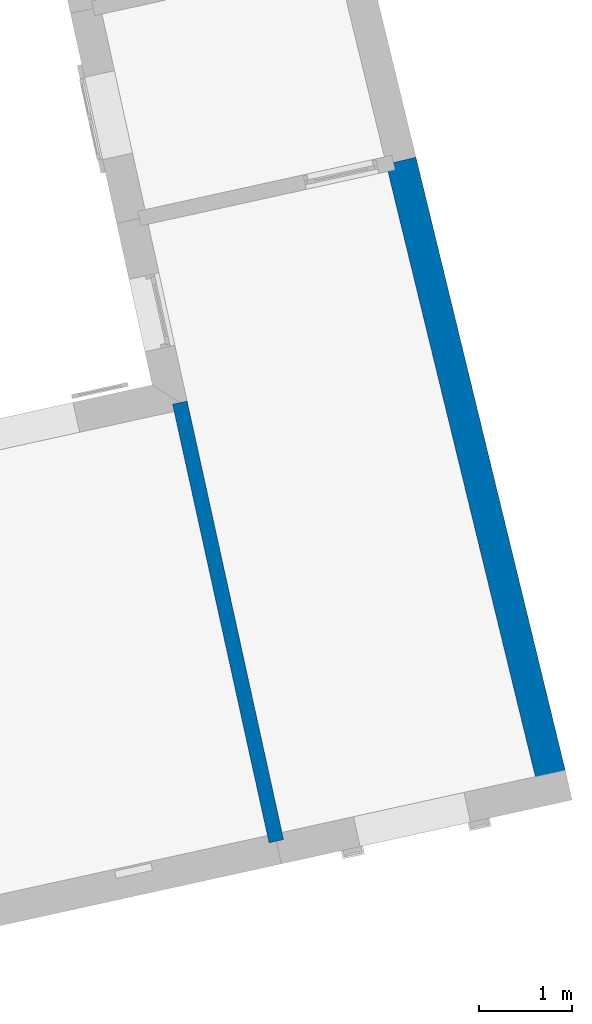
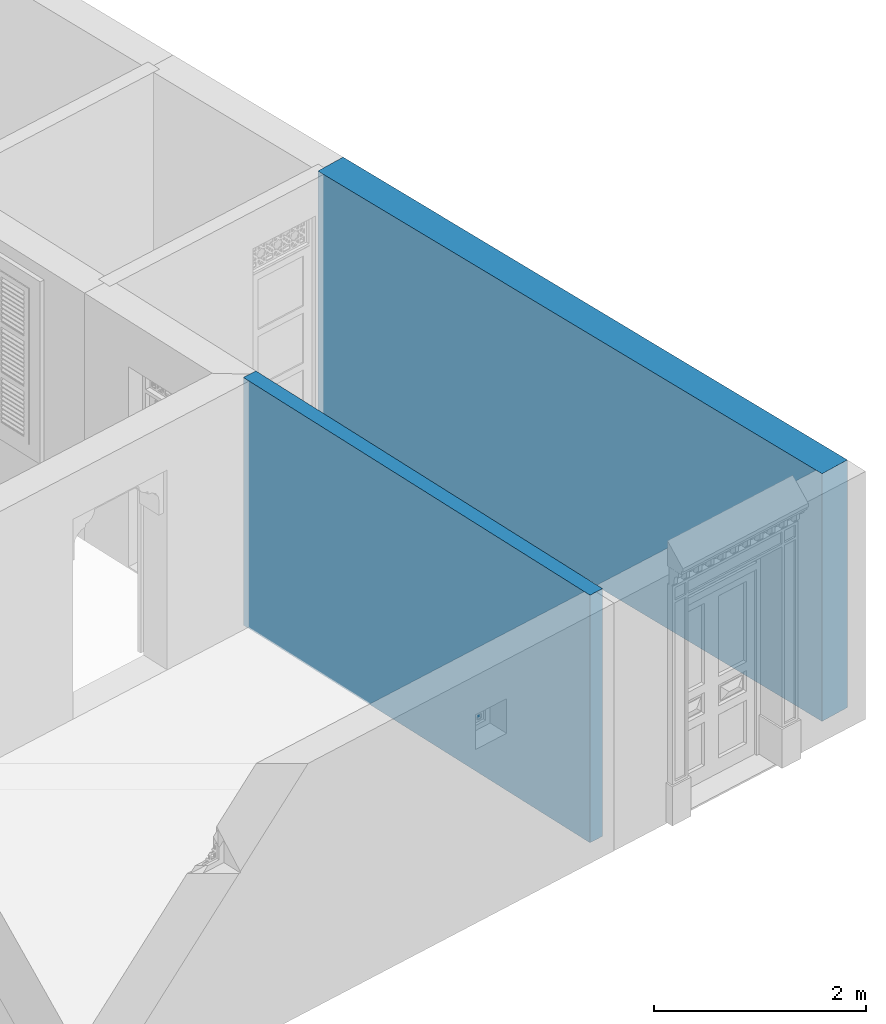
# One storey, part 4 of 14: 2 walls.
"""IFC4 building model written with IfcOpenShell, lengths in metres."""

import ifcopenshell
import ifcopenshell.guid

model = None  # the IFC model being written
_history = None  # IfcOwnerHistory: only IFC2X3 demands one
_inside = {}  # id of a spatial element -> (the spatial element, [elements in it])
_under = {}  # id of a project, library or spatial element -> (it, [spatial elements below it])
_declared = {}  # id of a project -> (the project, [libraries it declares])
_typed = {}  # id of a type object -> (the type object, [elements of that type])
_made_of = {}  # id of a material, layer set ... -> (it, [elements and type objects made of it])


def new_model(schema):
    """Start an empty IFC model of exactly this schema.

    Asked for "IFC4X3", IfcOpenShell would pick the latest addendum, in which some entities
    have other attributes; the version numbers below select the first issue.
    IFC2X3 requires an IfcOwnerHistory on every rooted entity: one is made here for all.
    """
    global model, _history
    if schema == "IFC4X3":
        model = ifcopenshell.file(schema_version=(4, 3, 0, 0))
    else:
        model = ifcopenshell.file(schema=schema)
    _inside.clear()
    _under.clear()
    _declared.clear()
    _typed.clear()
    _made_of.clear()
    _history = None
    if model.schema == "IFC2X3":
        org = make("IfcOrganization", Name="unknown")
        user = make(
            "IfcPersonAndOrganization",
            ThePerson=make("IfcPerson", FamilyName="unknown"),
            TheOrganization=org,
        )
        app = make(
            "IfcApplication",
            ApplicationDeveloper=org,
            Version="unknown",
            ApplicationFullName="unknown",
            ApplicationIdentifier="unknown",
        )
        _history = make(
            "IfcOwnerHistory",
            OwningUser=user,
            OwningApplication=app,
            ChangeAction="ADDED",
            CreationDate=0,
        )
    return model


def make(cls, **values):
    """One entity of the class cls with the attributes given. An attribute that is None is left unset."""
    return model.create_entity(
        cls, **{name: value for name, value in values.items() if value is not None}
    )


def rooted(cls, **values):
    """An entity with a GlobalId (a new one), such as an element, a storey or a relation."""
    return make(cls, GlobalId=ifcopenshell.guid.new(), OwnerHistory=_history, **values)


def si_unit(unit_type, name, prefix=None):
    """IfcSIUnit, for example si_unit("LENGTHUNIT", "METRE", prefix="MILLI")."""
    return make("IfcSIUnit", UnitType=unit_type, Prefix=prefix, Name=name)


def assignment(units):
    """IfcUnitAssignment: the units of a project."""
    return None if units is None else make("IfcUnitAssignment", Units=units)


def point(xyz):
    """IfcCartesianPoint."""
    return None if xyz is None else make("IfcCartesianPoint", Coordinates=xyz)


def direction(xyz):
    """IfcDirection."""
    return None if xyz is None else make("IfcDirection", DirectionRatios=xyz)


def frame(location, z_axis=None, x_axis=None):
    """IfcAxis2Placement3D, a coordinate frame: its origin and axes. An axis left out is left unset."""
    return make(
        "IfcAxis2Placement3D",
        Location=point(location),
        Axis=direction(z_axis),
        RefDirection=direction(x_axis),
    )


def origin_with_axes():
    """The frame at (0, 0, 0) with the z axis (0, 0, 1) and the x axis (1, 0, 0) written out."""
    return frame((0.0, 0.0, 0.0), z_axis=(0.0, 0.0, 1.0), x_axis=(1.0, 0.0, 0.0))


def place(relative_to, where):
    """IfcLocalPlacement: puts the frame where relative to a parent placement (None: the world)."""
    return make(
        "IfcLocalPlacement", PlacementRelTo=relative_to, RelativePlacement=where
    )


def context(
    kind, dimensions, precision=None, world=None, true_north=None, identifier=None
):
    """IfcGeometricRepresentationContext, for example the 3D "Model" context."""
    return make(
        "IfcGeometricRepresentationContext",
        ContextIdentifier=identifier,
        ContextType=kind,
        CoordinateSpaceDimension=dimensions,
        Precision=precision,
        WorldCoordinateSystem=world,
        TrueNorth=true_north,
    )


def subcontext(parent, identifier, kind, view, scale=None):
    """IfcGeometricRepresentationSubContext, for example "Body" below "Model"."""
    return make(
        "IfcGeometricRepresentationSubContext",
        ContextIdentifier=identifier,
        ContextType=kind,
        ParentContext=parent,
        TargetScale=scale,
        TargetView=view,
    )


def project(units=None, contexts=None):
    """IfcProject with its units and contexts."""
    return rooted(
        "IfcProject",
        Name="project",
        RepresentationContexts=contexts,
        UnitsInContext=assignment(units),
    )


def spatial(cls, under=None, at=None, **own):
    """A site, building, storey or space (cls), placed at a placement, below another one or the project."""
    s = rooted(cls, ObjectPlacement=at, **own)
    if under is not None:
        _under.setdefault(under.id(), (under, []))[1].append(s)
    return s


def polyline(points):
    """IfcPolyline through the points."""
    return make("IfcPolyline", Points=[point(p) for p in points])


def outline(outer, holes=None, kind="AREA"):
    """IfcArbitraryClosedProfileDef: a profile drawn as a closed curve; with holes, ...WithVoids."""
    if holes is None:
        return make("IfcArbitraryClosedProfileDef", ProfileType=kind, OuterCurve=outer)
    return make(
        "IfcArbitraryProfileDefWithVoids",
        ProfileType=kind,
        OuterCurve=outer,
        InnerCurves=holes,
    )


def extrude(swept, where, along, depth):
    """IfcExtrudedAreaSolid: the profile swept, set in the frame where, extruded along a direction by depth."""
    return make(
        "IfcExtrudedAreaSolid",
        SweptArea=swept,
        Position=where,
        ExtrudedDirection=direction(along),
        Depth=depth,
    )


def shape(context_of_items, identifier, shape_type, items):
    """IfcShapeRepresentation: the items that make up one representation, for example the "Body"."""
    return make(
        "IfcShapeRepresentation",
        ContextOfItems=context_of_items,
        RepresentationIdentifier=identifier,
        RepresentationType=shape_type,
        Items=items,
    )


def material(Name=None, Category=None):
    """IfcMaterial."""
    return make("IfcMaterial", Name=Name, Category=Category)


def layer(
    of_material, thickness, ventilated=None, Name=None, Category=None, Priority=None
):
    """IfcMaterialLayer: one layer of a wall or slab, of a material (None: an air gap)."""
    return make(
        "IfcMaterialLayer",
        Material=of_material,
        LayerThickness=thickness,
        IsVentilated=ventilated,
        Name=Name,
        Category=Category,
        Priority=Priority,
    )


def layer_set(layers, Name=None):
    """IfcMaterialLayerSet."""
    return make("IfcMaterialLayerSet", MaterialLayers=layers, LayerSetName=Name)


def layer_usage(for_layer_set, set_direction, sense, offset, extent=None):
    """IfcMaterialLayerSetUsage: how a layer set lies in its element."""
    return make(
        "IfcMaterialLayerSetUsage",
        ForLayerSet=for_layer_set,
        LayerSetDirection=set_direction,
        DirectionSense=sense,
        OffsetFromReferenceLine=offset,
        ReferenceExtent=extent,
    )


def made_of(thing, what):
    """Note that an element or type object is made of a material, layer set ...; save() writes the relation."""
    if what is not None:
        _made_of.setdefault(what.id(), (what, []))[1].append(thing)
    return thing


def type_object(cls, material=None, **own):
    """A type object (cls), such as IfcWallType, which elements share."""
    return made_of(rooted(cls, **own), material)


def element(
    cls,
    number,
    at=None,
    inside=None,
    cuts=None,
    type_object=None,
    material=None,
    context=None,
    identifier="Body",
    shape_type=None,
    held_by="IfcProductDefinitionShape",
    body=None,
    shapes=None,
    **own,
):
    """One element of the class cls, such as IfcWall. Its Tag is "e" and its number.

    at: its placement. inside: the storey or other place that contains it. cuts: it is an
    opening in that element (IfcRelVoidsElement). A single representation is given by context,
    identifier, shape_type and body (its items); several are given by shapes. held_by: the class
    of the entity that holds the representations. save() writes the other relations.
    """
    e = rooted(cls, Tag="e%d" % number, ObjectPlacement=at, **own)
    if body is not None:
        shapes = [shape(context, identifier, shape_type, body)]
    if shapes is not None:
        e.Representation = make(held_by, Representations=shapes)
    if inside is not None:
        _inside.setdefault(inside.id(), (inside, []))[1].append(e)
    if cuts is not None:
        rooted(
            "IfcRelVoidsElement", RelatingBuildingElement=cuts, RelatedOpeningElement=e
        )
    if type_object is not None:
        _typed.setdefault(type_object.id(), (type_object, []))[1].append(e)
    return made_of(e, material)


def aggregate(whole, parts):
    """IfcRelAggregates: a whole, such as a stair, and the parts it consists of."""
    return rooted("IfcRelAggregates", RelatingObject=whole, RelatedObjects=parts)


def save(model, path):
    """Write the relations noted so far, then the file.

    IfcRelAggregates (storeys below a building ...), IfcRelContainedInSpatialStructure (elements
    in a storey), IfcRelDefinesByType, IfcRelAssociatesMaterial and IfcRelDeclares: one each for
    every whole, place, type object, material and project.
    """
    for whole, parts in _under.values():
        aggregate(whole, parts)
    for where, things in _inside.values():
        rooted(
            "IfcRelContainedInSpatialStructure",
            RelatedElements=things,
            RelatingStructure=where,
        )
    for kind, things in _typed.values():
        rooted("IfcRelDefinesByType", RelatedObjects=things, RelatingType=kind)
    for what, things in _made_of.values():
        rooted("IfcRelAssociatesMaterial", RelatedObjects=things, RelatingMaterial=what)
    for by, libraries in _declared.values():
        rooted("IfcRelDeclares", RelatingContext=by, RelatedDefinitions=libraries)
    model.write(path)


model = new_model("IFC4")

# Units and contexts
model_context = context("Model", 3, world=origin_with_axes())
body_context = subcontext(model_context, "Body", "Model", "MODEL_VIEW")
ifc_project = project(units=[si_unit("PLANEANGLEUNIT", "RADIAN"), si_unit("MASSUNIT", "GRAM", prefix="KILO"), si_unit("FORCEUNIT", "NEWTON", prefix="KILO"), si_unit("LENGTHUNIT", "METRE"), si_unit("AREAUNIT", "SQUARE_METRE"), si_unit("VOLUMEUNIT", "CUBIC_METRE")], contexts=[model_context, model_context])

# Site, building, storey
site_placement = place(None, origin_with_axes())
site = spatial("IfcSite", under=ifc_project, at=site_placement, Name="Site plot-2", CompositionType="ELEMENT")
building_placement = place(None, origin_with_axes())
building = spatial("IfcBuilding", under=site, at=building_placement, Name="Building plot-2", CompositionType="ELEMENT")
storey_placement = place(None, origin_with_axes())
storey = spatial("IfcBuildingStorey", under=building, at=storey_placement, Name="plot-2 0", CompositionType="ELEMENT", Elevation=0.0)

# Walls
ifc_material_1 = material(Name="Masonry")
ifc_layer_1 = layer(ifc_material_1, 0.33, ventilated=False)
ifc_layer_set_1 = layer_set([ifc_layer_1], Name="party_0.08_0.25")
ifc_layer_usage_1 = layer_usage(ifc_layer_set_1, "AXIS2", "POSITIVE", -0.25)
wall_type_1 = type_object("IfcWallType", Name="party_0.08_0.25", PredefinedType="SOLIDWALL", material=ifc_layer_set_1)
wall_1_placement = place(storey_placement, frame((20.7070596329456, 3.36053728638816, 0.0), z_axis=(0.0, 0.0, 1.0), x_axis=(-0.23660834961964, 0.971605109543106, 0.0)))
element("IfcWall", 1, at=wall_1_placement, inside=storey, type_object=wall_type_1, material=ifc_layer_usage_1, Name="party", context=body_context, shape_type="SweptSolid", body=[
    extrude(outline(polyline([(1.11479997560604e-16, 0.08), (2.37352689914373e-16, -0.25), (6.88162867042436, -0.249999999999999), (6.88162867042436, 0.080000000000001), (1.11479997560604e-16, 0.08)])), origin_with_axes(), (0.0, 0.0, 1.0), 2.85),
])
ifc_material_2 = material(Name="Masonry")
ifc_layer_2 = layer(ifc_material_2, 0.16, ventilated=False)
ifc_layer_set_2 = layer_set([ifc_layer_2], Name="interior_0.08_0.08")
ifc_layer_usage_2 = layer_usage(ifc_layer_set_2, "AXIS2", "POSITIVE", -0.08)
wall_type_2 = type_object("IfcWallType", Name="interior_0.08_0.08", PredefinedType="SOLIDWALL", material=ifc_layer_set_2)
wall_2_placement = place(storey_placement, frame((16.7741128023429, 7.45730474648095, 0.0), z_axis=(0.0, 0.0, 1.0), x_axis=(0.214808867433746, -0.976656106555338, 0.0)))
element("IfcWall", 2, at=wall_2_placement, inside=storey, type_object=wall_type_2, material=ifc_layer_usage_2, Name="interior", context=body_context, shape_type="SweptSolid", body=[
    extrude(outline(polyline([(1.82534271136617e-16, 0.0800000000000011), (-1.5680430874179e-16, -0.0800000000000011), (4.84596481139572, -0.0800000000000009), (4.84596481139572, 0.080000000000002), (1.82534271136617e-16, 0.0800000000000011)])), origin_with_axes(), (0.0, 0.0, 1.0), 2.85),
])

save(model, "model.ifc")
